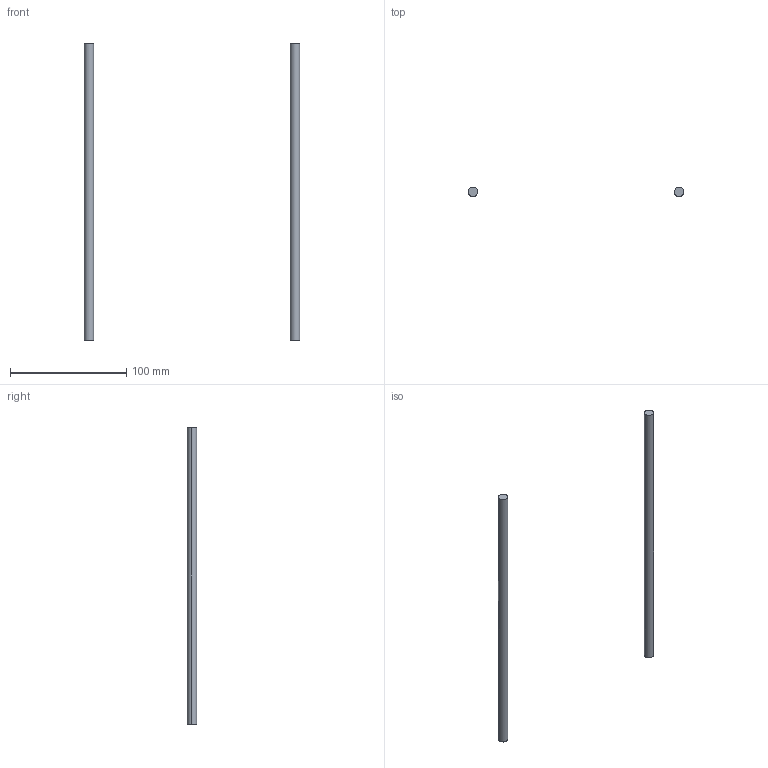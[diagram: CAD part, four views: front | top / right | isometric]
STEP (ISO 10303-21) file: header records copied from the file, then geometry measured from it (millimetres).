
FILE_DESCRIPTION(/* description */ (''),/* implementation_level */ '2;1');
FILE_NAME(/* name */ '240803-DIYUTM-8mmRod',/* time_stamp */ '2024-08-03T10:10:58+02:00',/* author */ (''),/* organization */ (''),/* preprocessor_version */ 'ST-DEVELOPER v16.5',/* originating_system */ 'Rhino 7.37',/* authorisation */ '');
FILE_SCHEMA (('CONFIG_CONTROL_DESIGN'));
Length unit declared in the file: millimetre
Products named in the file (1): Document
Bounding box: 185.03 x 7.99 x 255 mm (x, y, z)
Volume: 25634.2 mm3; surface area: 13018.7 mm2
Topology: 2 solids, 2 shells, 8 faces, 12 edges, 8 vertices
Faces by surface type: cylinder 4, plane 4
Entity records: 252 total; most frequent: CARTESIAN_POINT 66, ORIENTED_EDGE 24, EDGE_CURVE 12, DIRECTION 12, AXIS2_PLACEMENT_3D 10, ADVANCED_FACE 8, FACE_OUTER_BOUND 8, EDGE_LOOP 8
